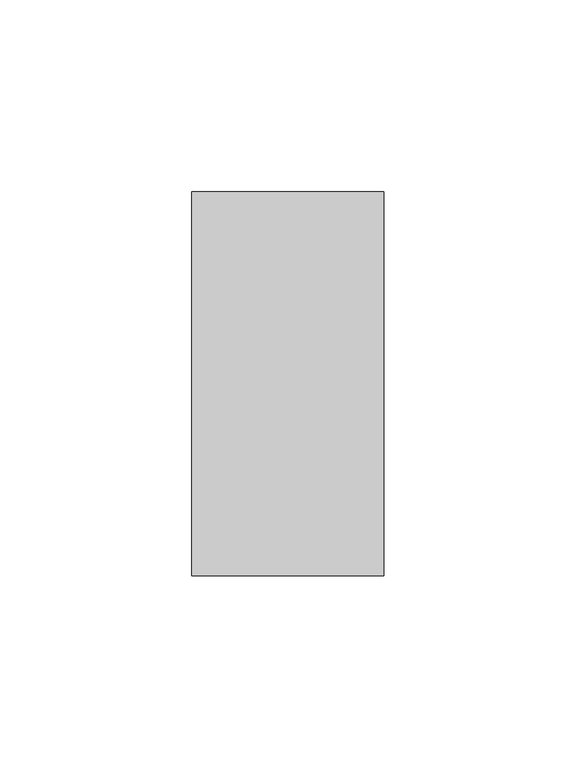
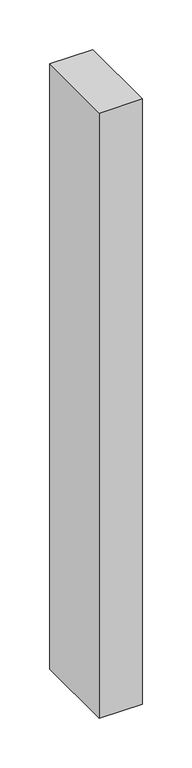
"""IFC4 building model written with IfcOpenShell, lengths in millimetres: member geometry, Прямоугольный импост : 50х100."""

from ifc_helpers import new_model, si_unit, frame, origin, place, context, project, spatial, polyline, outline, extrude, source, transform, mapped, element, save


def member_2b4ef4e7(model_context):
    return source(origin(), model_context, "Body", "SweptSolid", [
        extrude(outline(polyline([(25.0, 50.0), (25.0, -50.0), (-25.0, -50.0), (-25.0, 50.0), (25.0, 50.0)])), frame((0.0, 0.0, -745.0), z_axis=(0.0, 0.0, 1.0), x_axis=(1.0, 0.0, 0.0)), (0.0, 0.0, 1.0), 745.0),
    ])


if __name__ == "__main__":
    model = new_model("IFC4")
    model_context = context("Model", 3, world=origin())
    ifc_project = project(units=[si_unit("LENGTHUNIT", "METRE", prefix="MILLI")], contexts=[model_context])
    site = spatial("IfcSite", under=ifc_project)
    building = spatial("IfcBuilding", under=site)
    placement = place(None, origin())
    member_shape = member_2b4ef4e7(model_context)
    element("IfcMember", 1, ObjectType="Прямоугольный импост : 50х100", at=placement, inside=building, context=model_context, shape_type="MappedRepresentation", body=[
        mapped(member_shape, transform((0.0, 0.0, 0.0), x_axis=(1.0, 0.0, 0.0), y_axis=(0.0, 1.0, 0.0), z_axis=(0.0, 0.0, 1.0))),
    ])
    save(model, "model.ifc")
